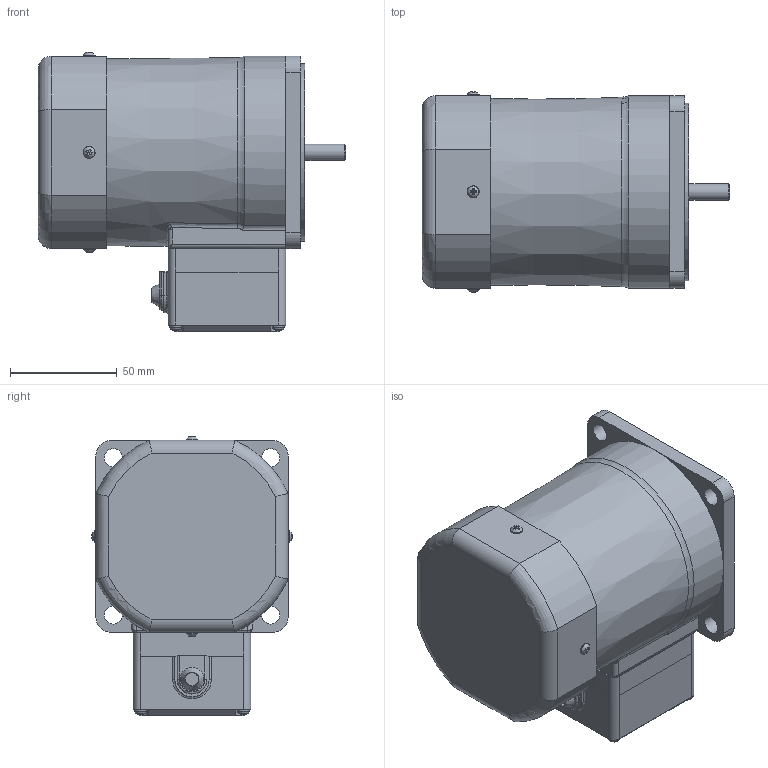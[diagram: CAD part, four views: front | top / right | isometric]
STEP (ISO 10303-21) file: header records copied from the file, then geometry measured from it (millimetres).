
FILE_DESCRIPTION(/* description */ (''),/* implementation_level */ '2;1');
FILE_NAME(/* name */ 'E:\도면작업\2016\0704) 미주향 SG 도면\3D MOTOR\TERMINAL BOX TYPE\INDUCTION TERMINAL BOX\SG9I60G_-T1.stp',/* time_stamp */ '2017-01-23T18:56:22+09:00',/* author */ ('jy-jung'),/* organization */ (''),/* preprocessor_version */ 'ST-DEVELOPER v15.6',/* originating_system */ 'Autodesk Inventor 2015',/* authorisation */ '');
FILE_SCHEMA (('AUTOMOTIVE_DESIGN { 1 0 10303 214 3 1 1 }'));
Length unit declared in the file: millimetre
Products named in the file (1): 부품1
Bounding box: 143.9 x 93.89 x 130.95 mm (x, y, z)
Volume: 921105.4 mm3; surface area: 66307.4 mm2
Topology: 1 solids, 6 shells, 352 faces, 914 edges, 585 vertices
Faces by surface type: plane 172, cylinder 70, cone 48, torus 36, bspline 22, sphere 4
Full cylindrical faces by diameter (mm): 3 x4, 3.5 x4, 5.6 x4, 7.62 x1, 8 x1, 8.5 x4, 40 x1, 83 x1
Entity records: 11922 total; most frequent: CARTESIAN_POINT 3488, ORIENTED_EDGE 1702, DIRECTION 1627, EDGE_CURVE 851, AXIS2_PLACEMENT_3D 620, VERTEX_POINT 574, EDGE_LOOP 429, LINE 387
